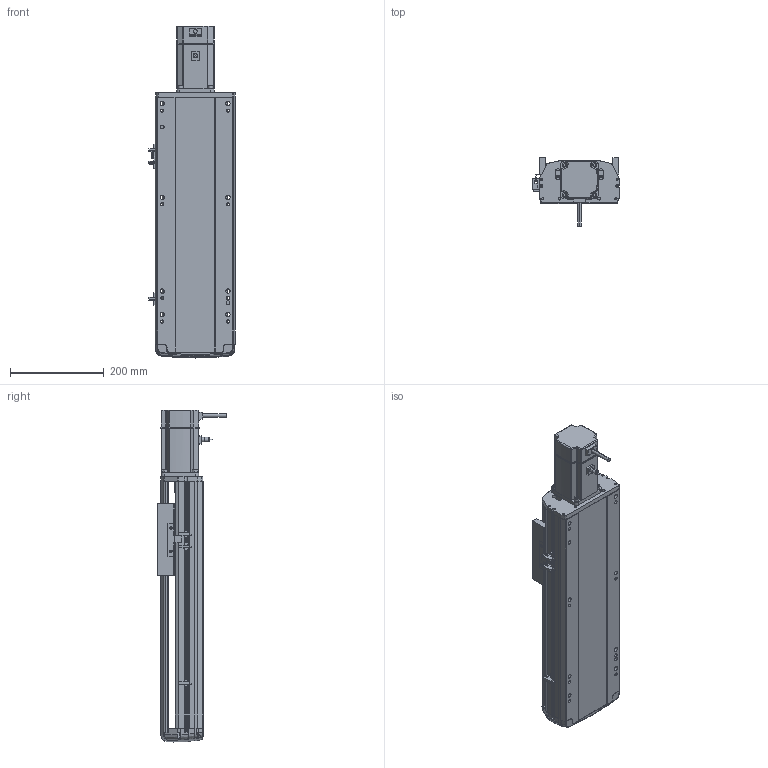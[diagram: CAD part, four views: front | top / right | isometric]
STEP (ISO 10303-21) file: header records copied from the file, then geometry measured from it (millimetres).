
FILE_DESCRIPTION (( 'STEP AP214' ), '1' );
FILE_NAME ('RTH17-XX-300-E-M75-C4.STEP', '2025-10-24T09:36:00', ( '' ), ( '' ), 'SwSTEP 2.0', 'SolidWorks 2018', '' );
FILE_SCHEMA (( 'AUTOMOTIVE_DESIGN' ));
Length unit declared in the file: millimetre
Products named in the file (9): RTH17-XX-300-E-M75-C4; N_RTH17-E-004丝杆螺母连接座^RTH17-XX-XX-E-M75-C4（方程式）; N_RTH17-E-011底座^RTH17-XX-XX-E-M75-C4（方程式）; N_RTH17-E-007上盖^RTH17-XX-XX-E-M75-C4（方程式）; N_OMRON EE-SX672 換覜ん^RTH17-XX-XX-E-M75-C4ㄗ源最宒ㄘ; N_RTH-L-012 感应片(外置)^RTH17-XX-XX-E-M75-C4（方程式）; N_RTH17-GY-001P^RTH17-XX-XX-E-M75-C4（方程式）; N_RTH17-E-008-P75电机板^RTH17-XX-XX-E-M75-C4（方程式）; N_M75^RTH17-XX-XX-E-M75-C4（方程式）
Assembly tree (10 placements, depth 2):
  RTH17-XX-300-E-M75-C4
    N_RTH17-E-011底座^RTH17-XX-XX-E-M75-C4（方程式）
    N_RTH17-E-007上盖^RTH17-XX-XX-E-M75-C4（方程式）
    N_M75^RTH17-XX-XX-E-M75-C4（方程式）
    N_RTH17-E-008-P75电机板^RTH17-XX-XX-E-M75-C4（方程式）
    N_OMRON EE-SX672 換覜ん^RTH17-XX-XX-E-M75-C4ㄗ源最宒ㄘ  x3
    N_RTH-L-012 感应片(外置)^RTH17-XX-XX-E-M75-C4（方程式）
    N_RTH17-E-004丝杆螺母连接座^RTH17-XX-XX-E-M75-C4（方程式）
    N_RTH17-GY-001P^RTH17-XX-XX-E-M75-C4（方程式）
Bounding box: 183.5 x 145.7 x 708.27 mm (x, y, z)
Volume: 5398302.2 mm3; surface area: 731916.7 mm2
Topology: 9 solids, 11 shells, 1748 faces, 4821 edges, 3122 vertices
Faces by surface type: plane 820, cylinder 514, bspline 377, cone 28, torus 9
Entity records: 50998 total; most frequent: CARTESIAN_POINT 20155, ORIENTED_EDGE 6666, DIRECTION 5597, EDGE_CURVE 3337, VERTEX_POINT 2158, AXIS2_PLACEMENT_3D 1895, VECTOR 1807, LINE 1807
